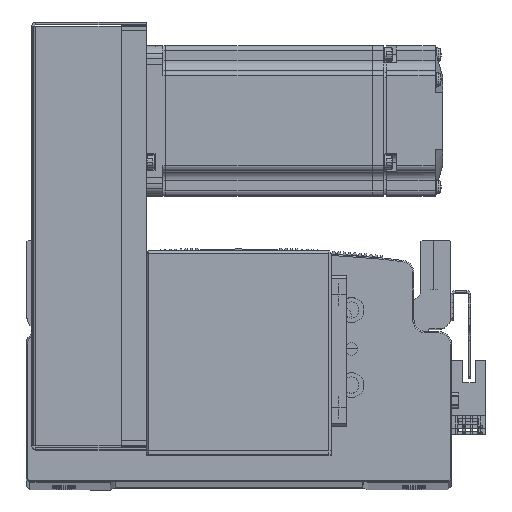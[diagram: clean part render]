
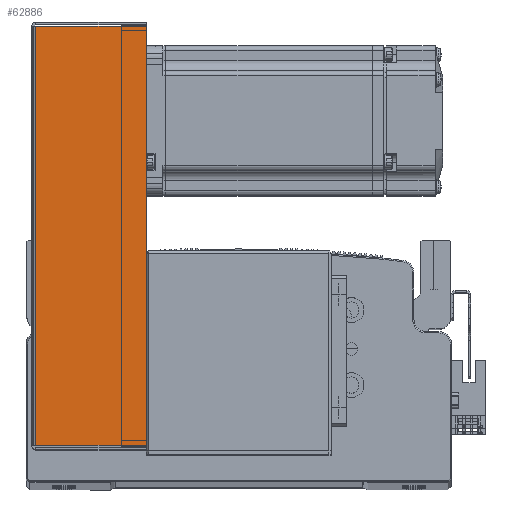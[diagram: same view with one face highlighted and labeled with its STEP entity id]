
A CAD part, top view. The second image highlights one B-rep face of the part: STEP entity #62886.
In plain terms, the highlighted planar face has unit normal (0, 0, 1) as drawn and (0, 0, -1) by its records, which use the part's own axes.
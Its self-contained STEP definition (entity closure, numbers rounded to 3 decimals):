
#2042 = CARTESIAN_POINT ( 'NONE',  ( 83.793, 45., -40.5 ) ) ;
#2046 = CARTESIAN_POINT ( 'NONE',  ( -83.793, 0.737, -40.5 ) ) ;
#2105 = CARTESIAN_POINT ( 'NONE',  ( 83.793, 0.737, -40.5 ) ) ;
#2144 = CARTESIAN_POINT ( 'NONE',  ( -83.793, 45., -40.5 ) ) ;
#15417 = LINE ( 'NONE', #83777, #15436 ) ;
#15436 = VECTOR ( 'NONE', #83758, 1000. ) ;
#15556 = VECTOR ( 'NONE', #84065, 1000. ) ;
#15561 = LINE ( 'NONE', #84034, #15565 ) ;
#15565 = VECTOR ( 'NONE', #84043, 1000. ) ;
#15581 = LINE ( 'NONE', #84090, #15556 ) ;
#15617 = LINE ( 'NONE', #84063, #15679 ) ;
#15679 = VECTOR ( 'NONE', #84029, 1000. ) ;
#16285 = AXIS2_PLACEMENT_3D ( 'NONE', #29717, #29645, #29533 ) ;
#20206 = EDGE_LOOP ( 'NONE', ( #21923, #21937, #22072, #22010 ) ) ;
#21923 = ORIENTED_EDGE ( 'NONE', *, *, #26157, .F. ) ;
#21937 = ORIENTED_EDGE ( 'NONE', *, *, #26011, .T. ) ;
#22010 = ORIENTED_EDGE ( 'NONE', *, *, #26185, .F. ) ;
#22072 = ORIENTED_EDGE ( 'NONE', *, *, #26166, .T. ) ;
#24006 = FACE_OUTER_BOUND ( 'NONE', #20206, .T. ) ;
#26011 = EDGE_CURVE ( 'NONE', #47943, #48000, #15417, .T. ) ;
#26157 = EDGE_CURVE ( 'NONE', #47943, #47922, #15581, .T. ) ;
#26166 = EDGE_CURVE ( 'NONE', #48000, #47918, #15561, .T. ) ;
#26185 = EDGE_CURVE ( 'NONE', #47922, #47918, #15617, .T. ) ;
#29533 = DIRECTION ( 'NONE',  ( 0., -1., 0. ) ) ;
#29618 = PLANE ( 'NONE',  #16285 ) ;
#29645 = DIRECTION ( 'NONE',  ( 0., 0., 1. ) ) ;
#29717 = CARTESIAN_POINT ( 'NONE',  ( 0., 0., -40.5 ) ) ;
#47918 = VERTEX_POINT ( 'NONE', #2042 ) ;
#47922 = VERTEX_POINT ( 'NONE', #2105 ) ;
#47943 = VERTEX_POINT ( 'NONE', #2046 ) ;
#48000 = VERTEX_POINT ( 'NONE', #2144 ) ;
#62886 = ADVANCED_FACE ( 'NONE', ( #24006 ), #29618, .F. ) ;
#83758 = DIRECTION ( 'NONE',  ( 0., 1., 0. ) ) ;
#83777 = CARTESIAN_POINT ( 'NONE',  ( -83.793, 0., -40.5 ) ) ;
#84029 = DIRECTION ( 'NONE',  ( 0., 1., 0. ) ) ;
#84034 = CARTESIAN_POINT ( 'NONE',  ( 84.5, 45., -40.5 ) ) ;
#84043 = DIRECTION ( 'NONE',  ( 1., 0., 0. ) ) ;
#84063 = CARTESIAN_POINT ( 'NONE',  ( 83.793, 0., -40.5 ) ) ;
#84065 = DIRECTION ( 'NONE',  ( 1., 0., 0. ) ) ;
#84090 = CARTESIAN_POINT ( 'NONE',  ( 0., 0.737, -40.5 ) ) ;
